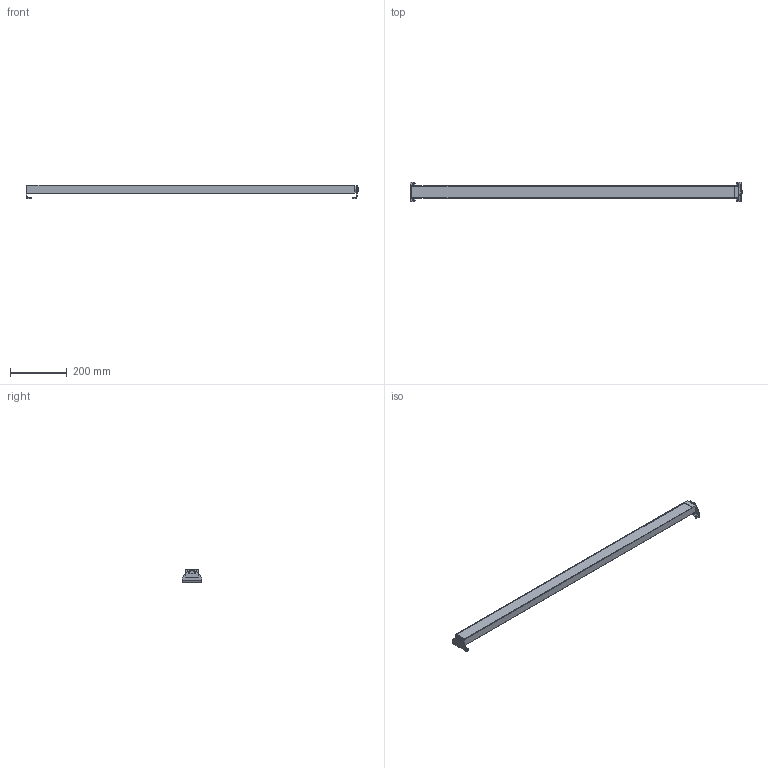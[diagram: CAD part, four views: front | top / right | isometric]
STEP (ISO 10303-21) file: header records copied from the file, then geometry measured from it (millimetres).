
FILE_DESCRIPTION (( 'STEP AP203' ), '1' );
FILE_NAME ('GAU-48-33W-LED STEP.STEP', '2013-10-20T04:07:39', ( 'CAD' ), ( 'Toshiba' ), 'SwSTEP 2.0', 'SolidWorks 2011', '' );
FILE_SCHEMA (( 'CONFIG_CONTROL_DESIGN' ));
Length unit declared in the file: millimetre
Products named in the file (4): GAU-48-33W-LED STEP; foot with plastic_3; foot without cord_3; GAU-48-33W-LED
Assembly tree (3 placements, depth 2):
  GAU-48-33W-LED STEP
    GAU-48-33W-LED
    foot with plastic_3
    foot without cord_3
Bounding box: 1173.21 x 68.33 x 46.35 mm (x, y, z)
Volume: 1309350 mm3; surface area: 196865.2 mm2
Topology: 3 solids, 4 shells, 87 faces, 223 edges, 148 vertices
Faces by surface type: plane 56, cylinder 31
Entity records: 3081 total; most frequent: DIRECTION 473, CARTESIAN_POINT 464, ORIENTED_EDGE 446, EDGE_CURVE 223, LINE 159, VECTOR 159, AXIS2_PLACEMENT_3D 157, VERTEX_POINT 148
